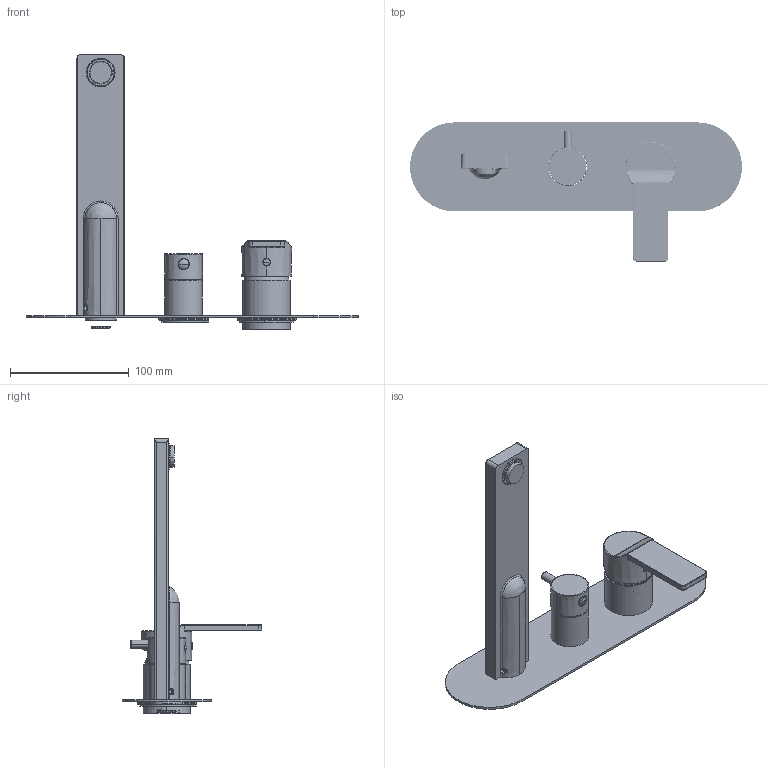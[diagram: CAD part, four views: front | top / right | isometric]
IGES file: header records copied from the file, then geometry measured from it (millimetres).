
Start section:  PTC IGES file: 3d_sw0001.igs
Global section: file name: 3d_sw0001.igs; native system: Creo Parametric by PTC Inc.; preprocessor: 2022014; author: volponeff; organization: Unknown; date: 20240314.140946; units: millimetre
Bounding box: 280 x 117.5 x 231.5 mm (x, y, z)
Surface area: 138628.8 mm2 (no closed solid volume)
Topology: 0 solids, 0 shells, 1683 faces, 9335 edges, 9304 vertices
Faces by surface type: revolution 1081, bspline 602
